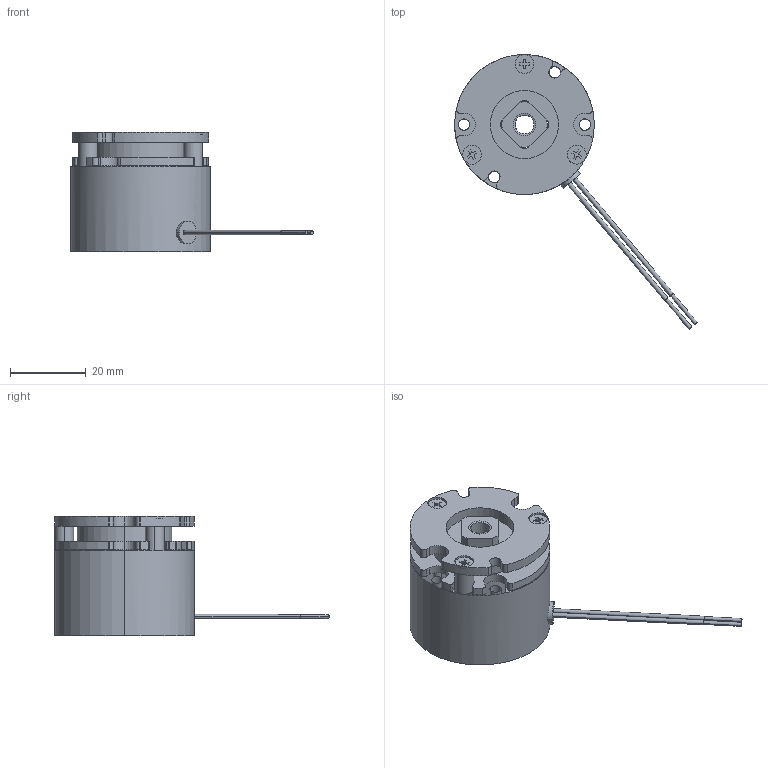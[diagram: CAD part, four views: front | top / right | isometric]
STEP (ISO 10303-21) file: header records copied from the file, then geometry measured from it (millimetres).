
FILE_DESCRIPTION (( 'STEP AP214' ), '1' );
FILE_NAME ('BXW-01-10H-5.STEP', '2017-07-18T04:55:55', ( 'MIKI' ), ( '' ), 'SwSTEP 2.0', 'SolidWorks 2012', '' );
FILE_SCHEMA (( 'AUTOMOTIVE_DESIGN' ));
Length unit declared in the file: millimetre
Products named in the file (1): BXW-01-10H-5
Bounding box: 64.28 x 72.67 x 31.5 mm (x, y, z)
Volume: 26232.4 mm3; surface area: 11959.8 mm2
Topology: 1 solids, 1 shells, 270 faces, 737 edges, 478 vertices
Faces by surface type: cylinder 139, plane 115, cone 16
Entity records: 11843 total; most frequent: CARTESIAN_POINT 1736, DIRECTION 1549, ORIENTED_EDGE 1466, EDGE_CURVE 733, AXIS2_PLACEMENT_3D 563, VERTEX_POINT 478, LINE 423, VECTOR 423
